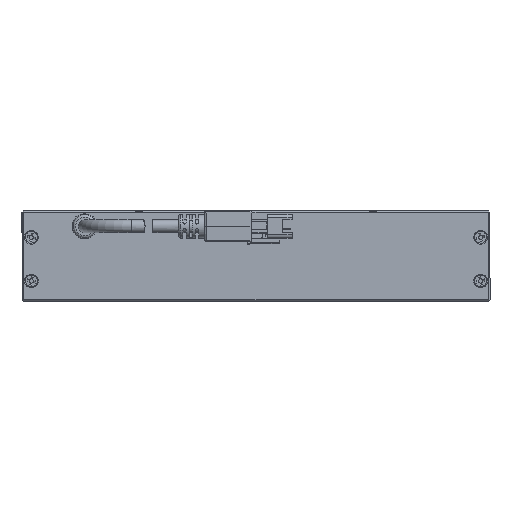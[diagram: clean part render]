
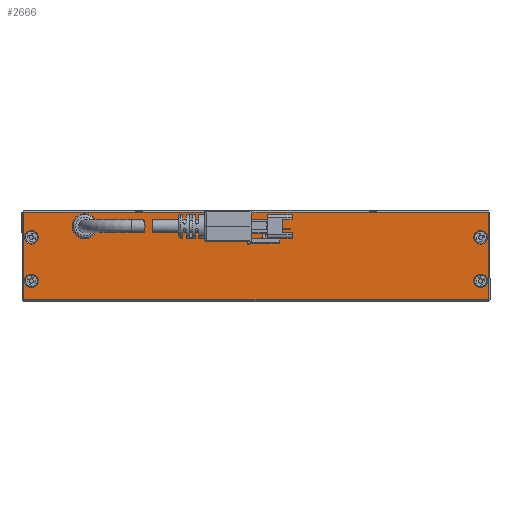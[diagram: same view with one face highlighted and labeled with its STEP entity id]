
A CAD part, front view. The second image highlights one B-rep face of the part: STEP entity #2666.
In plain terms, the highlighted planar face has unit normal (0, -1, 0).
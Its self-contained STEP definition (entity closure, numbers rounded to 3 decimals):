
#122 = VECTOR ( 'NONE', #14967, 1000. ) ;
#387 = CARTESIAN_POINT ( 'NONE',  ( -74.5, -75., -26.5 ) ) ;
#394 = CARTESIAN_POINT ( 'NONE',  ( -72., -75., -20.5 ) ) ;
#552 = CARTESIAN_POINT ( 'NONE',  ( 74.5, -75., 2. ) ) ;
#902 = VECTOR ( 'NONE', #7740, 1000. ) ;
#1018 = VERTEX_POINT ( 'NONE', #11209 ) ;
#1735 = VECTOR ( 'NONE', #3871, 1000. ) ;
#1905 = CARTESIAN_POINT ( 'NONE',  ( -74.2, -75., -6.5 ) ) ;
#2049 = VECTOR ( 'NONE', #19019, 1000. ) ;
#2335 = FACE_BOUND ( 'NONE', #8124, .T. ) ;
#2449 = EDGE_LOOP ( 'NONE', ( #20334 ) ) ;
#2515 = EDGE_CURVE ( 'NONE', #20216, #15696, #21069, .T. ) ;
#2666 = ADVANCED_FACE ( 'NONE', ( #2335, #8575, #21342, #18847, #20537, #7167 ), #22342, .F. ) ;
#3280 = VERTEX_POINT ( 'NONE', #4068 ) ;
#3433 = CIRCLE ( 'NONE', #16625, 2.2 ) ;
#3589 = CIRCLE ( 'NONE', #20803, 2.2 ) ;
#3669 = EDGE_CURVE ( 'NONE', #17260, #17028, #8632, .T. ) ;
#3871 = DIRECTION ( 'NONE',  ( 0., 0., 1. ) ) ;
#4068 = CARTESIAN_POINT ( 'NONE',  ( 74.5, -75., -26.5 ) ) ;
#4128 = DIRECTION ( 'NONE',  ( -1., 0., 0. ) ) ;
#4254 = DIRECTION ( 'NONE',  ( 0., -1., 0. ) ) ;
#4333 = CARTESIAN_POINT ( 'NONE',  ( -75., -75., 1.5 ) ) ;
#4555 = CIRCLE ( 'NONE', #6369, 2.2 ) ;
#4999 = EDGE_CURVE ( 'NONE', #17260, #20216, #20234, .T. ) ;
#5360 = VERTEX_POINT ( 'NONE', #387 ) ;
#5456 = CARTESIAN_POINT ( 'NONE',  ( -54.9, -75., -3. ) ) ;
#5931 = DIRECTION ( 'NONE',  ( 0., 1., 0. ) ) ;
#6128 = DIRECTION ( 'NONE',  ( -1., 0., 0. ) ) ;
#6369 = AXIS2_PLACEMENT_3D ( 'NONE', #16558, #21752, #12971 ) ;
#6652 = ORIENTED_EDGE ( 'NONE', *, *, #21063, .F. ) ;
#7167 = FACE_BOUND ( 'NONE', #22623, .T. ) ;
#7355 = ORIENTED_EDGE ( 'NONE', *, *, #23445, .T. ) ;
#7360 = CARTESIAN_POINT ( 'NONE',  ( -52.1, -75., -3. ) ) ;
#7575 = DIRECTION ( 'NONE',  ( 0., -1., 0. ) ) ;
#7660 = EDGE_CURVE ( 'NONE', #5360, #3280, #11725, .T. ) ;
#7666 = ORIENTED_EDGE ( 'NONE', *, *, #2515, .T. ) ;
#7740 = DIRECTION ( 'NONE',  ( 0., 0., 1. ) ) ;
#7896 = DIRECTION ( 'NONE',  ( -1., 0., 0. ) ) ;
#8110 = VERTEX_POINT ( 'NONE', #22133 ) ;
#8124 = EDGE_LOOP ( 'NONE', ( #11704, #7666, #8140, #12821 ) ) ;
#8140 = ORIENTED_EDGE ( 'NONE', *, *, #9978, .F. ) ;
#8572 = CARTESIAN_POINT ( 'NONE',  ( -74.5, -75., 1.5 ) ) ;
#8575 = FACE_OUTER_BOUND ( 'NONE', #16831, .T. ) ;
#8632 = CIRCLE ( 'NONE', #10217, 2.8 ) ;
#8637 = EDGE_LOOP ( 'NONE', ( #13643 ) ) ;
#9095 = VECTOR ( 'NONE', #10875, 1000. ) ;
#9193 = DIRECTION ( 'NONE',  ( 0., -1., 0. ) ) ;
#9432 = LINE ( 'NONE', #4333, #2049 ) ;
#9717 = CARTESIAN_POINT ( 'NONE',  ( 72., -75., -6.5 ) ) ;
#9845 = LINE ( 'NONE', #22054, #21473 ) ;
#9978 = EDGE_CURVE ( 'NONE', #17028, #15696, #9845, .T. ) ;
#10217 = AXIS2_PLACEMENT_3D ( 'NONE', #5456, #9193, #18263 ) ;
#10875 = DIRECTION ( 'NONE',  ( 0., 0., -1. ) ) ;
#10963 = CARTESIAN_POINT ( 'NONE',  ( 69.8, -75., -20.5 ) ) ;
#11209 = CARTESIAN_POINT ( 'NONE',  ( -74.2, -75., -20.5 ) ) ;
#11391 = DIRECTION ( 'NONE',  ( 0., -1., 0. ) ) ;
#11424 = CARTESIAN_POINT ( 'NONE',  ( -57.7, -75., 0. ) ) ;
#11460 = CARTESIAN_POINT ( 'NONE',  ( 74.5, -75., 1.5 ) ) ;
#11704 = ORIENTED_EDGE ( 'NONE', *, *, #4999, .T. ) ;
#11725 = LINE ( 'NONE', #20441, #122 ) ;
#12300 = AXIS2_PLACEMENT_3D ( 'NONE', #9717, #4254, #6128 ) ;
#12821 = ORIENTED_EDGE ( 'NONE', *, *, #3669, .F. ) ;
#12971 = DIRECTION ( 'NONE',  ( -1., 0., 0. ) ) ;
#13396 = LINE ( 'NONE', #21728, #9095 ) ;
#13429 = EDGE_LOOP ( 'NONE', ( #6652 ) ) ;
#13514 = VERTEX_POINT ( 'NONE', #1905 ) ;
#13643 = ORIENTED_EDGE ( 'NONE', *, *, #13919, .F. ) ;
#13919 = EDGE_CURVE ( 'NONE', #23436, #23436, #3589, .T. ) ;
#13986 = VECTOR ( 'NONE', #20661, 1000. ) ;
#14856 = CIRCLE ( 'NONE', #12300, 2.2 ) ;
#14967 = DIRECTION ( 'NONE',  ( 1., 0., 0. ) ) ;
#15535 = CARTESIAN_POINT ( 'NONE',  ( -52.1, -75., 0. ) ) ;
#15696 = VERTEX_POINT ( 'NONE', #15535 ) ;
#15699 = ORIENTED_EDGE ( 'NONE', *, *, #17073, .T. ) ;
#16210 = ORIENTED_EDGE ( 'NONE', *, *, #22425, .T. ) ;
#16541 = DIRECTION ( 'NONE',  ( 0., 0., 1. ) ) ;
#16558 = CARTESIAN_POINT ( 'NONE',  ( -72., -75., -6.5 ) ) ;
#16612 = CARTESIAN_POINT ( 'NONE',  ( -57.7, -75., 0. ) ) ;
#16625 = AXIS2_PLACEMENT_3D ( 'NONE', #394, #7575, #20143 ) ;
#16831 = EDGE_LOOP ( 'NONE', ( #16210, #15699, #22631, #7355 ) ) ;
#17028 = VERTEX_POINT ( 'NONE', #7360 ) ;
#17073 = EDGE_CURVE ( 'NONE', #21496, #5360, #13396, .T. ) ;
#17091 = LINE ( 'NONE', #552, #902 ) ;
#17260 = VERTEX_POINT ( 'NONE', #20566 ) ;
#18213 = VERTEX_POINT ( 'NONE', #11460 ) ;
#18263 = DIRECTION ( 'NONE',  ( -1., 0., 0. ) ) ;
#18778 = CARTESIAN_POINT ( 'NONE',  ( -75., -75., 0. ) ) ;
#18847 = FACE_BOUND ( 'NONE', #2449, .T. ) ;
#18948 = CARTESIAN_POINT ( 'NONE',  ( 72., -75., -20.5 ) ) ;
#19019 = DIRECTION ( 'NONE',  ( -1., 0., 0. ) ) ;
#20143 = DIRECTION ( 'NONE',  ( -1., 0., 0. ) ) ;
#20216 = VERTEX_POINT ( 'NONE', #16612 ) ;
#20234 = LINE ( 'NONE', #11424, #1735 ) ;
#20334 = ORIENTED_EDGE ( 'NONE', *, *, #22411, .F. ) ;
#20441 = CARTESIAN_POINT ( 'NONE',  ( -75., -75., -26.5 ) ) ;
#20537 = FACE_BOUND ( 'NONE', #13429, .T. ) ;
#20566 = CARTESIAN_POINT ( 'NONE',  ( -57.7, -75., -3. ) ) ;
#20661 = DIRECTION ( 'NONE',  ( 1., 0., 0. ) ) ;
#20803 = AXIS2_PLACEMENT_3D ( 'NONE', #18948, #11391, #7896 ) ;
#21063 = EDGE_CURVE ( 'NONE', #13514, #13514, #4555, .T. ) ;
#21069 = LINE ( 'NONE', #18778, #13986 ) ;
#21342 = FACE_BOUND ( 'NONE', #8637, .T. ) ;
#21473 = VECTOR ( 'NONE', #16541, 1000. ) ;
#21496 = VERTEX_POINT ( 'NONE', #8572 ) ;
#21728 = CARTESIAN_POINT ( 'NONE',  ( -74.5, -75., 2. ) ) ;
#21752 = DIRECTION ( 'NONE',  ( 0., -1., 0. ) ) ;
#22054 = CARTESIAN_POINT ( 'NONE',  ( -52.1, -75., -3. ) ) ;
#22082 = ORIENTED_EDGE ( 'NONE', *, *, #23243, .F. ) ;
#22133 = CARTESIAN_POINT ( 'NONE',  ( 69.8, -75., -6.5 ) ) ;
#22272 = CARTESIAN_POINT ( 'NONE',  ( -75., -75., 2. ) ) ;
#22342 = PLANE ( 'NONE',  #23451 ) ;
#22411 = EDGE_CURVE ( 'NONE', #8110, #8110, #14856, .T. ) ;
#22425 = EDGE_CURVE ( 'NONE', #18213, #21496, #9432, .T. ) ;
#22623 = EDGE_LOOP ( 'NONE', ( #22082 ) ) ;
#22631 = ORIENTED_EDGE ( 'NONE', *, *, #7660, .T. ) ;
#23243 = EDGE_CURVE ( 'NONE', #1018, #1018, #3433, .T. ) ;
#23436 = VERTEX_POINT ( 'NONE', #10963 ) ;
#23445 = EDGE_CURVE ( 'NONE', #3280, #18213, #17091, .T. ) ;
#23451 = AXIS2_PLACEMENT_3D ( 'NONE', #22272, #5931, #4128 ) ;
